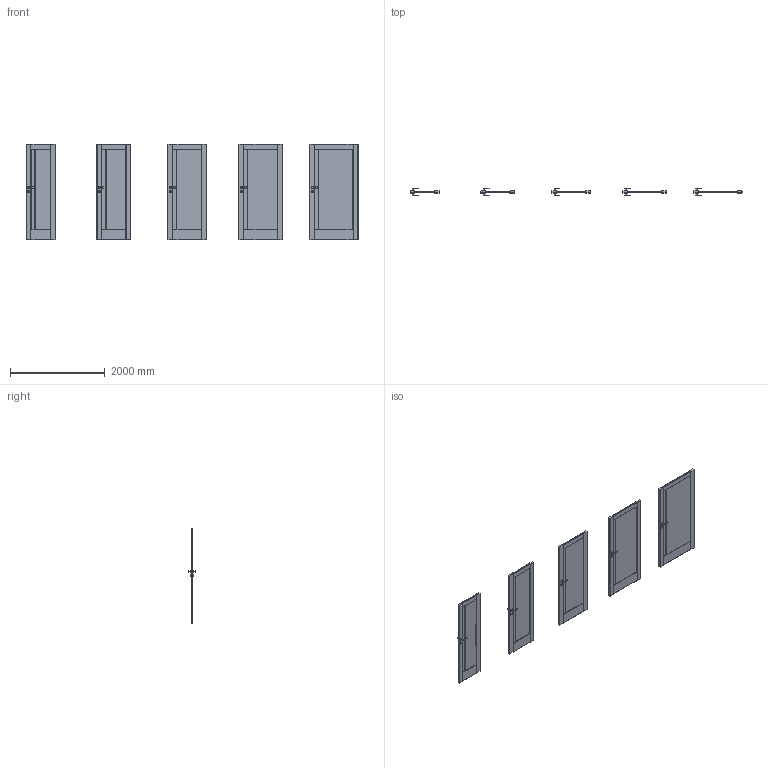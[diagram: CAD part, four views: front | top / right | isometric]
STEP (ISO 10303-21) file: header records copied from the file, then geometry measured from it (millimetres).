
FILE_DESCRIPTION(/* description */ (''),/* implementation_level */ '2;1');
FILE_NAME(/* name */ '049901_B_2-Skrzydło Verte Home model M.1_ polska norma _PN__ bezprzylgowe.stp',/* time_stamp */ '2024-09-13T12:34:39+02:00',/* author */ (''),/* organization */ (''),/* preprocessor_version */ 'ST-DEVELOPER v16',/* originating_system */ 'SIEMENS PLM Software NX 11.0',/* authorisation */ '');
FILE_SCHEMA (('AUTOMOTIVE_DESIGN { 1 0 10303 214 3 1 1 1 }'));
Length unit declared in the file: millimetre
Products named in the file (1): msmo68508806qmyp
Bounding box: 7018 x 153.13 x 2017.01 mm (x, y, z)
Volume: 177144187.9 mm3; surface area: 18651062.1 mm2
Topology: 25 solids, 30 shells, 1370 faces, 3455 edges, 2050 vertices
Faces by surface type: plane 640, cylinder 430, bspline 160, sphere 140
Entity records: 45700 total; most frequent: CARTESIAN_POINT 13816, ORIENTED_EDGE 6630, DIRECTION 6457, EDGE_CURVE 3315, AXIS2_PLACEMENT_3D 2251, VERTEX_POINT 2050, LINE 1955, VECTOR 1955
